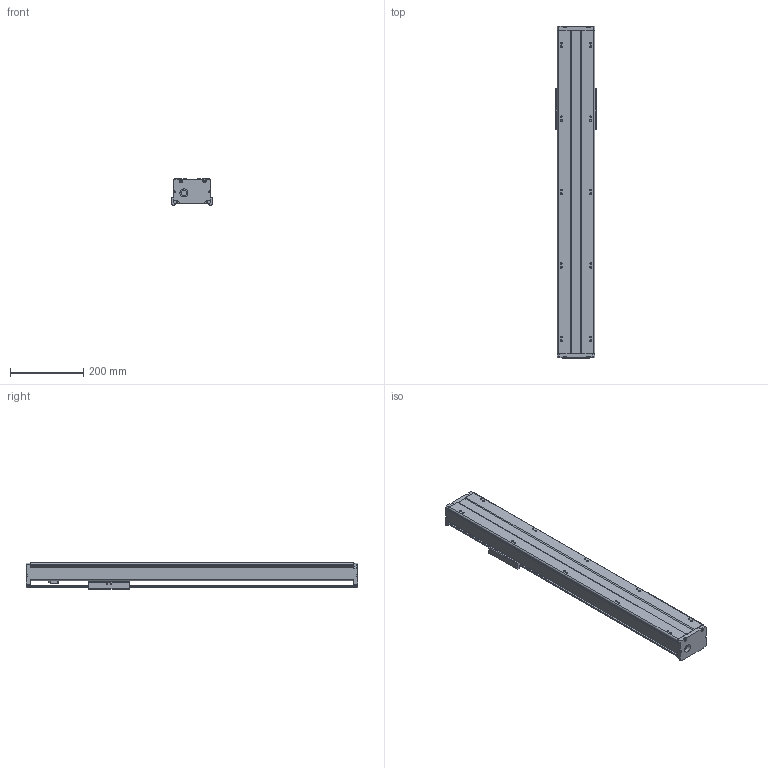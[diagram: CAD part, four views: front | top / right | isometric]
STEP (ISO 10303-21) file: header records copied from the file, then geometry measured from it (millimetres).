
FILE_DESCRIPTION(/* description */ (''),/* implementation_level */ '2;1');
FILE_NAME(/* name */ 'TKA100-650A1F0_asm1.stp',/* time_stamp */ '2017-02-20T16:20:34+08:00',/* author */ (''),/* organization */ (''),/* preprocessor_version */ 'ST-DEVELOPER v15',/* originating_system */ 'SIEMENS PLM Software NX 8.5',/* authorisation */ '');
FILE_SCHEMA (('AUTOMOTIVE_DESIGN { 1 0 10303 214 3 1 1 1 }'));
Length unit declared in the file: millimetre
Products named in the file (3): 200-02; 200-01; TKA100-650A1F0_asm1_stp
Assembly tree (2 placements, depth 2):
  TKA100-650A1F0_asm1_stp
    200-01
    200-02
Bounding box: 110 x 904 x 71 mm (x, y, z)
Volume: 1926584.5 mm3; surface area: 635224.1 mm2
Topology: 2 solids, 8 shells, 685 faces, 1825 edges, 1192 vertices
Faces by surface type: cylinder 267, plane 257, cone 108, torus 27, bspline 26
Full cylindrical faces by diameter (mm): 2.5 x6, 2.6 x8, 3.3 x8, 3.4 x8, 3.8 x4, 4.2 x19, 4.3 x4, 4.5 x4, 5 x1, 5.5 x18, 6.6 x4, 8 x5, 9 x4, 10 x10, 11 x4, 12 x6, 12.05 x2, 15.3 x1, 15.4 x1, 16 x1, 17 x2, 18 x1, 22 x1, 24 x1, 28 x5, 30 x1
Entity records: 25812 total; most frequent: CARTESIAN_POINT 9820, DIRECTION 3263, ORIENTED_EDGE 3056, EDGE_CURVE 1528, AXIS2_PLACEMENT_3D 1305, VERTEX_POINT 1119, EDGE_LOOP 994, ADVANCED_FACE 685
